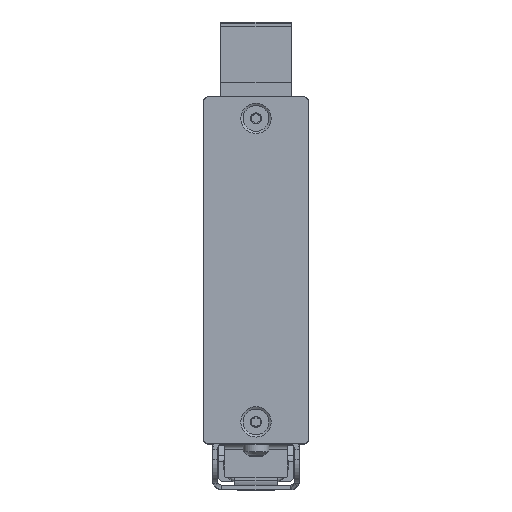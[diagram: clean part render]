
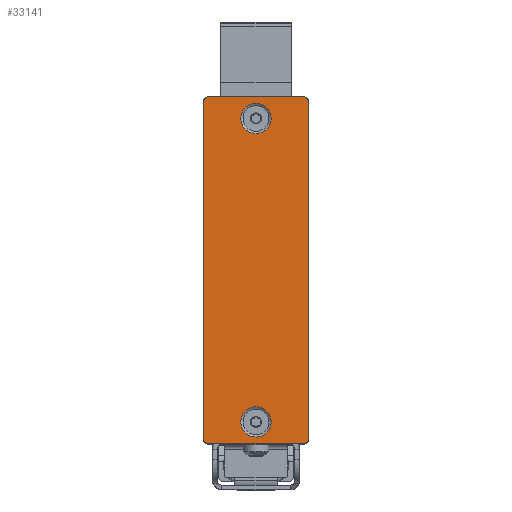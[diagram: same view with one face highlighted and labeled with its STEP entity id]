
A CAD part, top view. The second image highlights one B-rep face of the part: STEP entity #33141.
In plain terms, the highlighted planar face has unit normal (0, 0, 1).
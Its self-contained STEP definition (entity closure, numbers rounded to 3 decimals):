
#32748=CARTESIAN_POINT('',(-10.25,37.05,51.5));
#32749=VERTEX_POINT('',#32748);
#32756=CARTESIAN_POINT('',(10.25,37.05,51.5));
#32757=VERTEX_POINT('',#32756);
#32758=CARTESIAN_POINT('',(10.25,37.05,51.5));
#32759=DIRECTION('',(-1.,0.,0.));
#32760=VECTOR('',#32759,20.5);
#32761=LINE('',#32758,#32760);
#32762=EDGE_CURVE('',#32757,#32749,#32761,.T.);
#32779=CARTESIAN_POINT('',(-11.25,36.05,51.5));
#32780=VERTEX_POINT('',#32779);
#32781=CARTESIAN_POINT('',(-11.25,-36.15,51.5));
#32782=VERTEX_POINT('',#32781);
#32783=CARTESIAN_POINT('',(-11.25,36.05,51.5));
#32784=DIRECTION('',(0.,-1.,0.));
#32785=VECTOR('',#32784,72.2);
#32786=LINE('',#32783,#32785);
#32787=EDGE_CURVE('',#32780,#32782,#32786,.T.);
#32820=CARTESIAN_POINT('',(-10.25,-37.15,51.5));
#32821=VERTEX_POINT('',#32820);
#32822=CARTESIAN_POINT('',(10.25,-37.15,51.5));
#32823=VERTEX_POINT('',#32822);
#32824=CARTESIAN_POINT('',(-10.25,-37.15,51.5));
#32825=DIRECTION('',(1.,0.,-0.));
#32826=VECTOR('',#32825,20.5);
#32827=LINE('',#32824,#32826);
#32828=EDGE_CURVE('',#32821,#32823,#32827,.T.);
#32871=CARTESIAN_POINT('',(11.25,36.05,51.5));
#32872=VERTEX_POINT('',#32871);
#32879=CARTESIAN_POINT('',(11.25,-36.15,51.5));
#32880=VERTEX_POINT('',#32879);
#32881=CARTESIAN_POINT('',(11.25,-36.15,51.5));
#32882=DIRECTION('',(-0.,1.,0.));
#32883=VECTOR('',#32882,72.2);
#32884=LINE('',#32881,#32883);
#32885=EDGE_CURVE('',#32880,#32872,#32884,.T.);
#33080=CARTESIAN_POINT('',(0.,-0.05,51.5));
#33081=DIRECTION('',(0.,0.,1.));
#33082=DIRECTION('',(-1.,0.,0.));
#33083=AXIS2_PLACEMENT_3D('',#33080,#33081,#33082);
#33084=PLANE('',#33083);
#33085=CARTESIAN_POINT('',(0.,-35.8,51.5));
#33086=VERTEX_POINT('',#33085);
#33087=CARTESIAN_POINT('',(0.,-32.55,51.5));
#33088=DIRECTION('',(0.,0.,-1.));
#33089=DIRECTION('',(0.,-1.,0.));
#33090=AXIS2_PLACEMENT_3D('',#33087,#33088,#33089);
#33091=CIRCLE('',#33090,3.25);
#33092=EDGE_CURVE('',#33086,#33086,#33091,.T.);
#33093=ORIENTED_EDGE('',*,*,#33092,.T.);
#33094=EDGE_LOOP('',(#33093));
#33095=FACE_BOUND('',#33094,.T.);
#33096=CARTESIAN_POINT('',(0.,29.2,51.5));
#33097=VERTEX_POINT('',#33096);
#33098=CARTESIAN_POINT('',(0.,32.45,51.5));
#33099=DIRECTION('',(0.,0.,-1.));
#33100=DIRECTION('',(0.,-1.,0.));
#33101=AXIS2_PLACEMENT_3D('',#33098,#33099,#33100);
#33102=CIRCLE('',#33101,3.25);
#33103=EDGE_CURVE('',#33097,#33097,#33102,.T.);
#33104=ORIENTED_EDGE('',*,*,#33103,.T.);
#33105=EDGE_LOOP('',(#33104));
#33106=FACE_BOUND('',#33105,.T.);
#33107=ORIENTED_EDGE('',*,*,#32762,.T.);
#33108=CARTESIAN_POINT('',(-10.25,36.05,51.5));
#33109=DIRECTION('',(0.,0.,1.));
#33110=DIRECTION('',(1.,0.,-0.));
#33111=AXIS2_PLACEMENT_3D('',#33108,#33109,#33110);
#33112=CIRCLE('',#33111,1.);
#33113=EDGE_CURVE('',#32749,#32780,#33112,.T.);
#33114=ORIENTED_EDGE('',*,*,#33113,.T.);
#33115=ORIENTED_EDGE('',*,*,#32787,.T.);
#33116=CARTESIAN_POINT('',(-10.25,-36.15,51.5));
#33117=DIRECTION('',(0.,0.,1.));
#33118=DIRECTION('',(1.,0.,-0.));
#33119=AXIS2_PLACEMENT_3D('',#33116,#33117,#33118);
#33120=CIRCLE('',#33119,1.);
#33121=EDGE_CURVE('',#32782,#32821,#33120,.T.);
#33122=ORIENTED_EDGE('',*,*,#33121,.T.);
#33123=ORIENTED_EDGE('',*,*,#32828,.T.);
#33124=CARTESIAN_POINT('',(10.25,-36.15,51.5));
#33125=DIRECTION('',(0.,0.,1.));
#33126=DIRECTION('',(1.,0.,-0.));
#33127=AXIS2_PLACEMENT_3D('',#33124,#33125,#33126);
#33128=CIRCLE('',#33127,1.);
#33129=EDGE_CURVE('',#32823,#32880,#33128,.T.);
#33130=ORIENTED_EDGE('',*,*,#33129,.T.);
#33131=ORIENTED_EDGE('',*,*,#32885,.T.);
#33132=CARTESIAN_POINT('',(10.25,36.05,51.5));
#33133=DIRECTION('',(0.,0.,1.));
#33134=DIRECTION('',(1.,0.,-0.));
#33135=AXIS2_PLACEMENT_3D('',#33132,#33133,#33134);
#33136=CIRCLE('',#33135,1.);
#33137=EDGE_CURVE('',#32872,#32757,#33136,.T.);
#33138=ORIENTED_EDGE('',*,*,#33137,.T.);
#33139=EDGE_LOOP('',(#33107,#33114,#33115,#33122,#33123,#33130,#33131,#33138));
#33140=FACE_BOUND('',#33139,.T.);
#33141=ADVANCED_FACE('',(#33095,#33106,#33140),#33084,.T.);
